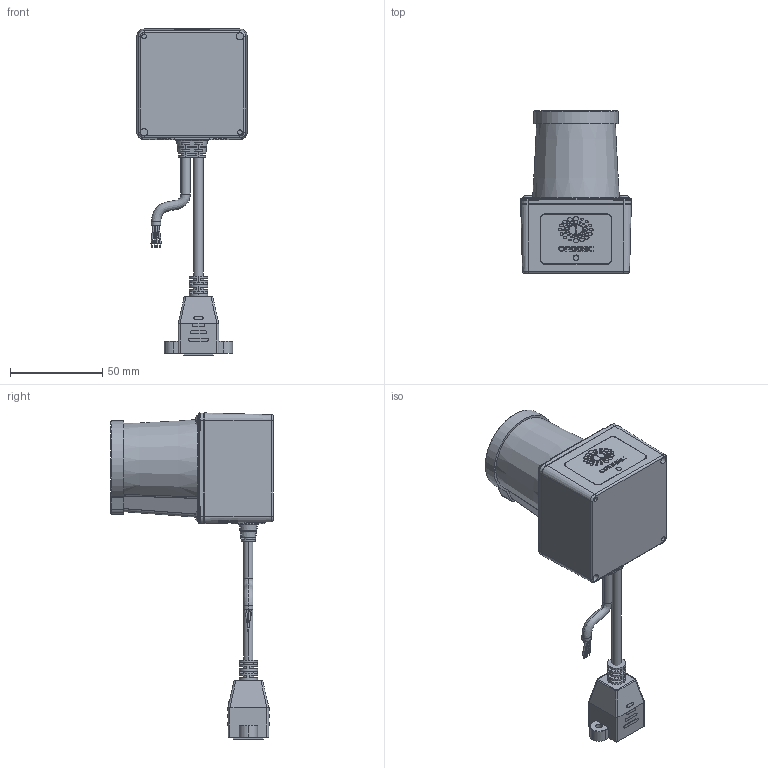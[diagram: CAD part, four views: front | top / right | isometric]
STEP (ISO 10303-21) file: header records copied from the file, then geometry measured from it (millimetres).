
FILE_DESCRIPTION((''),'2;1');
FILE_NAME('0-F2007_ANNY-ALL_ASM_ASM','2024-12-10T20:20:52',('zhaozheng'),(''),'CREO PARAMETRIC BY PTC INC, 2020053','CREO PARAMETRIC BY PTC INC, 2020053','');
FILE_SCHEMA(('CONFIG_CONTROL_DESIGN','SHAPE_APPEARANCE_LAYERS_GROUPS'));
Length unit declared in the file: millimetre
Products named in the file (77): 320700004_STD-SCREW_6; 0-310900630--202210001_3; 320100271_PM3X8_4; TOP_COVER_2; TOP_COVER_D_7; TOP_COVER_C_2; 320700001_STD--SCR0001_ASM_6_ASM; 0-310400170_-202100001_4; 310200645-P2228-200001_4; 0-310400170_P2228-0001_5; ORBBEC_LAB_A_3_1_1; ORBBEC_LAB_A_3_2_1; ORBBEC_LAB_A_3_3_1; ORBBEC_LAB_A_3_4_1; ORBBEC_LAB_A_3_5_1; ORBBEC_LAB_A_3_6_1; ORBBEC_LAB_A_3_7_1; ORBBEC_LAB_A_3_8_1; ORBBEC_LAB_A_3_9_1; ORBBEC_LAB_A_3_10_1; ORBBEC_LAB_A_3_11_1; ORBBEC_LAB_A_3_12_1; ORBBEC_LAB_A_3_13_1; ORBBEC_LAB_A_3_14_1; ORBBEC_LAB_A_3_15_1; ORBBEC_LAB_A_3_16_1; ORBBEC_LAB_A_3_17_1; ORBBEC_LAB_A_3_18_1; ORBBEC_LAB_A_3_19_1; ORBBEC_LAB_A_3_20_1; ORBBEC_LAB_A_3_21_1; ORBBEC_LAB_A_3_22_1; ORBBEC_LAB_A_3_23_1; ORBBEC_LAB_A_3_24_1; ORBBEC_LAB_A_3_25_1; ORBBEC_LAB_A_3_26_1; ORBBEC_LAB_A_3_27_1; ORBBEC_LAB_A_3_28_1; ORBBEC_LAB_A_3_29_1; ORBBEC_LAB_A_3_30_1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
Assembly tree (81 placements, depth 7):
  0-F2007_ANNY-ALL_ASM_ASM
    0-F2007_ANNY-ALL_ASM_8_ASM
      320700001_STD--SCR0001_ASM_6_ASM
        320700004_STD-SCREW_6
        0-310900630--202210001_3
        320100271_PM3X8_4  x4
        TOP_COVER_2
        TOP_COVER_D_7
        TOP_COVER_C_2
      FIXED_PART_ASM_3_ASM
        0-310400170_-202100001_4
        P2228-00_ASM_4_ASM
          310200645-P2228-200001_4
          0-310400170_P2228-0001_5
          ORBBEC_LAB_A_ASM_1_ASM
            ORBBEC_LAB_A_3_ASM_1_ASM
              ORBBEC_LAB_A_3_1_1
              ORBBEC_LAB_A_3_2_1
              ORBBEC_LAB_A_3_3_1
              ORBBEC_LAB_A_3_4_1
              ORBBEC_LAB_A_3_5_1
              ORBBEC_LAB_A_3_6_1
              ORBBEC_LAB_A_3_7_1
              ORBBEC_LAB_A_3_8_1
              ORBBEC_LAB_A_3_9_1
              ORBBEC_LAB_A_3_10_1
              ORBBEC_LAB_A_3_11_1
              ORBBEC_LAB_A_3_12_1
              ORBBEC_LAB_A_3_13_1
              ORBBEC_LAB_A_3_14_1
              ORBBEC_LAB_A_3_15_1
              ORBBEC_LAB_A_3_16_1
              ORBBEC_LAB_A_3_17_1
              ORBBEC_LAB_A_3_18_1
              ORBBEC_LAB_A_3_19_1
              ORBBEC_LAB_A_3_20_1
              ORBBEC_LAB_A_3_21_1
              ORBBEC_LAB_A_3_22_1
              ORBBEC_LAB_A_3_23_1
              ORBBEC_LAB_A_3_24_1
              ORBBEC_LAB_A_3_25_1
              ORBBEC_LAB_A_3_26_1
              ORBBEC_LAB_A_3_27_1
              ORBBEC_LAB_A_3_28_1
              ORBBEC_LAB_A_3_29_1
              ORBBEC_LAB_A_3_30_1
              ORBBEC_LAB_A_3_31_1
              ORBBEC_LAB_A_3_32_1
              ORBBEC_LAB_A_3_33_1
              ORBBEC_LAB_A_3_34_1
              ORBBEC_LAB_A_3_35_1
              ORBBEC_LAB_A_3_36_1
              ORBBEC_LAB_A_3_37_1
              ORBBEC_LAB_A_3_38_1
              ORBBEC_LAB_A_3_39_1
              ORBBEC_LAB_A_3_40_1
              ORBBEC_LAB_A_3_41_1
              ORBBEC_LAB_A_3_42_1
              ORBBEC_LAB_A_3_43_1
              ORBBEC_LAB_A_3_44_1
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Bounding box: 59.98 x 88.1 x 176.79 mm (x, y, z)
Volume: 247246.1 mm3; surface area: 81546.1 mm2
Topology: 72 solids, 77 shells, 3740 faces, 10015 edges, 6473 vertices
Faces by surface type: plane 2228, cylinder 785, bspline 244, torus 192, extrusion 146, cone 131, revolution 8, sphere 6
Entity records: 164307 total; most frequent: CARTESIAN_POINT 61813, ORIENTED_EDGE 18426, DIRECTION 16510, EDGE_CURVE 9237, VECTOR 6404, LINE 6259, VERTEX_POINT 5972, AXIS2_PLACEMENT_3D 5052
